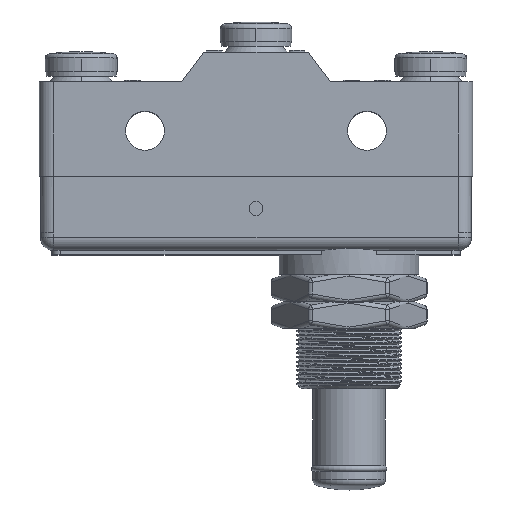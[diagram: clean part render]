
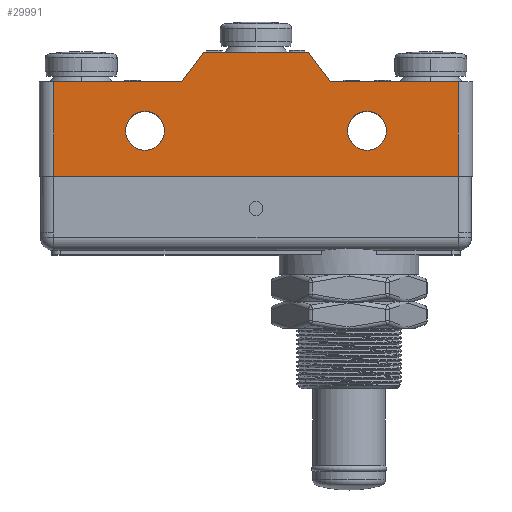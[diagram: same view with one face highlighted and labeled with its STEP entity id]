
A CAD part, top view. The second image highlights one B-rep face of the part: STEP entity #29991.
In plain terms, the highlighted planar face has unit normal (0, 0, 1).
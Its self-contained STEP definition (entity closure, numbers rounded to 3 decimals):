
#3550=DIRECTION('',(-1.,0.,0.));
#3551=VECTOR('',#3550,12.);
#3552=CARTESIAN_POINT('',(87.175,20.7,10.548));
#3553=LINE('',#3552,#3551);
#3882=DIRECTION('',(-1.,0.,0.));
#3883=VECTOR('',#3882,14.65);
#3884=CARTESIAN_POINT('',(104.325,17.3,10.548));
#3885=LINE('',#3884,#3883);
#4500=DIRECTION('',(0.,1.,0.));
#4501=VECTOR('',#4500,10.8);
#4502=CARTESIAN_POINT('',(104.325,6.5,10.548));
#4503=LINE('',#4502,#4501);
#4508=DIRECTION('',(-1.,0.,0.));
#4509=VECTOR('',#4508,46.3);
#4510=CARTESIAN_POINT('',(104.325,6.5,10.548));
#4511=LINE('',#4510,#4509);
#4512=DIRECTION('',(0.,1.,0.));
#4513=VECTOR('',#4512,10.8);
#4514=CARTESIAN_POINT('',(58.025,6.5,10.548));
#4515=LINE('',#4514,#4513);
#4516=DIRECTION('',(1.,0.,0.));
#4517=VECTOR('',#4516,14.65);
#4518=CARTESIAN_POINT('',(58.025,17.3,10.548));
#4519=LINE('',#4518,#4517);
#4520=DIRECTION('',(0.592,0.806,0.));
#4521=VECTOR('',#4520,4.22);
#4522=CARTESIAN_POINT('',(72.675,17.3,10.548));
#4523=LINE('',#4522,#4521);
#4524=DIRECTION('',(0.592,-0.806,0.));
#4525=VECTOR('',#4524,4.22);
#4526=CARTESIAN_POINT('',(87.175,20.7,10.548));
#4527=LINE('',#4526,#4525);
#4528=CARTESIAN_POINT('',(93.875,11.7,10.548));
#4529=DIRECTION('',(0.,0.,1.));
#4530=DIRECTION('',(-1.,0.,0.));
#4531=AXIS2_PLACEMENT_3D('',#4528,#4529,#4530);
#4533=CARTESIAN_POINT('',(93.875,11.7,10.548));
#4534=DIRECTION('',(0.,0.,1.));
#4535=DIRECTION('',(1.,0.,0.));
#4536=AXIS2_PLACEMENT_3D('',#4533,#4534,#4535);
#4538=CARTESIAN_POINT('',(68.475,11.7,10.548));
#4539=DIRECTION('',(0.,0.,1.));
#4540=DIRECTION('',(-1.,0.,0.));
#4541=AXIS2_PLACEMENT_3D('',#4538,#4539,#4540);
#4543=CARTESIAN_POINT('',(68.475,11.7,10.548));
#4544=DIRECTION('',(0.,0.,1.));
#4545=DIRECTION('',(1.,0.,0.));
#4546=AXIS2_PLACEMENT_3D('',#4543,#4544,#4545);
#19984=CARTESIAN_POINT('',(72.675,17.3,10.548));
#19986=VERTEX_POINT('',#19984);
#19988=CARTESIAN_POINT('',(58.025,17.3,10.548));
#19989=VERTEX_POINT('',#19988);
#20254=CARTESIAN_POINT('',(75.175,20.7,10.548));
#20256=VERTEX_POINT('',#20254);
#20278=CARTESIAN_POINT('',(58.025,6.5,10.548));
#20279=VERTEX_POINT('',#20278);
#20280=CARTESIAN_POINT('',(104.325,6.5,10.548));
#20281=VERTEX_POINT('',#20280);
#20312=CARTESIAN_POINT('',(87.175,20.7,10.548));
#20313=VERTEX_POINT('',#20312);
#20314=CARTESIAN_POINT('',(89.675,17.3,10.548));
#20315=VERTEX_POINT('',#20314);
#20316=CARTESIAN_POINT('',(91.642,11.7,10.548));
#20317=CARTESIAN_POINT('',(96.107,11.7,10.548));
#20318=VERTEX_POINT('',#20316);
#20319=VERTEX_POINT('',#20317);
#20320=CARTESIAN_POINT('',(66.242,11.7,10.548));
#20321=CARTESIAN_POINT('',(70.707,11.7,10.548));
#20322=VERTEX_POINT('',#20320);
#20323=VERTEX_POINT('',#20321);
#20328=CARTESIAN_POINT('',(104.325,17.3,10.548));
#20329=VERTEX_POINT('',#20328);
#29963=CARTESIAN_POINT('',(81.175,13.6,10.548));
#29964=DIRECTION('',(0.,0.,1.));
#29965=DIRECTION('',(-1.,0.,0.));
#29966=AXIS2_PLACEMENT_3D('',#29963,#29964,#29965);
#29967=PLANE('',#29966);
#29968=ORIENTED_EDGE('',*,*,#29401,.F.);
#29969=ORIENTED_EDGE('',*,*,#29956,.F.);
#29970=ORIENTED_EDGE('',*,*,#28643,.T.);
#29972=ORIENTED_EDGE('',*,*,#29971,.T.);
#29973=ORIENTED_EDGE('',*,*,#28727,.T.);
#29974=ORIENTED_EDGE('',*,*,#29021,.T.);
#29975=ORIENTED_EDGE('',*,*,#29033,.F.);
#29976=ORIENTED_EDGE('',*,*,#29381,.T.);
#29977=EDGE_LOOP('',(#29968,#29969,#29970,#29972,#29973,#29974,#29975,#29976));
#29978=FACE_OUTER_BOUND('',#29977,.F.);
#29980=ORIENTED_EDGE('',*,*,#29979,.T.);
#29982=ORIENTED_EDGE('',*,*,#29981,.T.);
#29983=EDGE_LOOP('',(#29980,#29982));
#29984=FACE_BOUND('',#29983,.F.);
#29986=ORIENTED_EDGE('',*,*,#29985,.T.);
#29988=ORIENTED_EDGE('',*,*,#29987,.T.);
#29989=EDGE_LOOP('',(#29986,#29988));
#29990=FACE_BOUND('',#29989,.F.);
#29991=ADVANCED_FACE('',(#29978,#29984,#29990),#29967,.T.);
#4532=CIRCLE('',#4531,2.233);
#4537=CIRCLE('',#4536,2.233);
#4542=CIRCLE('',#4541,2.233);
#4547=CIRCLE('',#4546,2.233);
#28643=EDGE_CURVE('',#20281,#20279,#4511,.T.);
#28727=EDGE_CURVE('',#19989,#19986,#4519,.T.);
#29021=EDGE_CURVE('',#19986,#20256,#4523,.T.);
#29033=EDGE_CURVE('',#20313,#20256,#3553,.T.);
#29381=EDGE_CURVE('',#20313,#20315,#4527,.T.);
#29401=EDGE_CURVE('',#20329,#20315,#3885,.T.);
#29956=EDGE_CURVE('',#20281,#20329,#4503,.T.);
#29971=EDGE_CURVE('',#20279,#19989,#4515,.T.);
#29979=EDGE_CURVE('',#20318,#20319,#4532,.T.);
#29981=EDGE_CURVE('',#20319,#20318,#4537,.T.);
#29985=EDGE_CURVE('',#20322,#20323,#4542,.T.);
#29987=EDGE_CURVE('',#20323,#20322,#4547,.T.);
